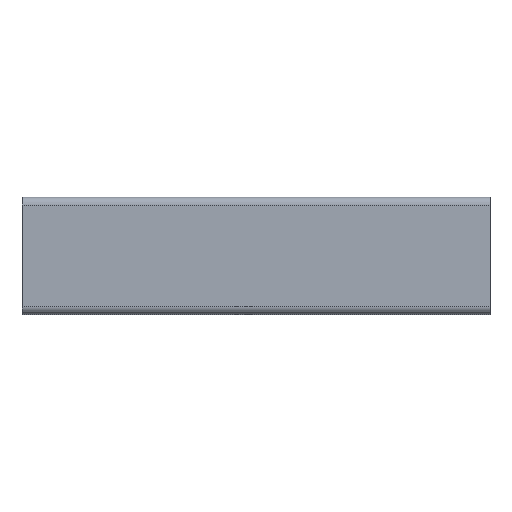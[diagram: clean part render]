
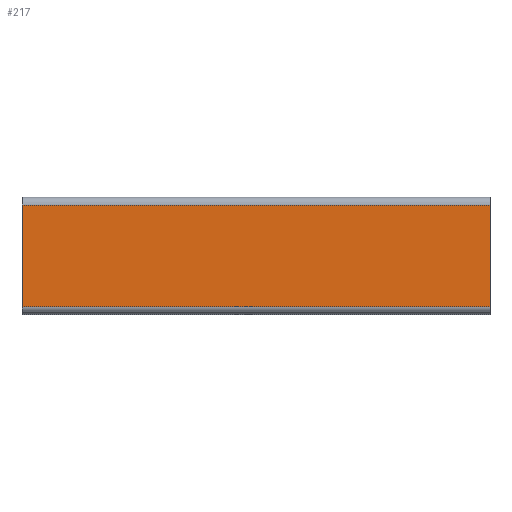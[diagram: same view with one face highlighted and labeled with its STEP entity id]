
A CAD part, top view. The second image highlights one B-rep face of the part: STEP entity #217.
In plain terms, the highlighted planar face has unit normal (0, 0, 1).
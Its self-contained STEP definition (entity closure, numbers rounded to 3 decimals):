
#18 = EDGE_CURVE ( 'NONE', #143, #907, #499, .T. ) ;
#76 = VECTOR ( 'NONE', #748, 1000. ) ;
#87 = CARTESIAN_POINT ( 'NONE',  ( 100., 23.375, 25. ) ) ;
#125 = CARTESIAN_POINT ( 'NONE',  ( 100., 1.708, 25. ) ) ;
#143 = VERTEX_POINT ( 'NONE', #936 ) ;
#217 = ADVANCED_FACE ( 'NONE', ( #1124 ), #428, .F. ) ;
#238 = DIRECTION ( 'NONE',  ( -1., 0., 0. ) ) ;
#287 = VECTOR ( 'NONE', #1045, 1000. ) ;
#291 = LINE ( 'NONE', #87, #76 ) ;
#333 = EDGE_LOOP ( 'NONE', ( #473, #839, #368, #705 ) ) ;
#368 = ORIENTED_EDGE ( 'NONE', *, *, #444, .F. ) ;
#428 = PLANE ( 'NONE',  #1099 ) ;
#444 = EDGE_CURVE ( 'NONE', #928, #838, #1026, .T. ) ;
#465 = VECTOR ( 'NONE', #689, 1000. ) ;
#473 = ORIENTED_EDGE ( 'NONE', *, *, #18, .T. ) ;
#492 = CARTESIAN_POINT ( 'NONE',  ( 0., 1.708, 25. ) ) ;
#499 = LINE ( 'NONE', #492, #287 ) ;
#535 = DIRECTION ( 'NONE',  ( -1., 0., 0. ) ) ;
#564 = LINE ( 'NONE', #713, #1014 ) ;
#623 = CARTESIAN_POINT ( 'NONE',  ( 100., 1.708, 25. ) ) ;
#689 = DIRECTION ( 'NONE',  ( 0., -1., 0. ) ) ;
#705 = ORIENTED_EDGE ( 'NONE', *, *, #816, .T. ) ;
#713 = CARTESIAN_POINT ( 'NONE',  ( 100., 1.708, 25. ) ) ;
#748 = DIRECTION ( 'NONE',  ( -1., 0., 0. ) ) ;
#813 = CARTESIAN_POINT ( 'NONE',  ( 100., 23.375, 25. ) ) ;
#816 = EDGE_CURVE ( 'NONE', #928, #143, #291, .T. ) ;
#819 = CARTESIAN_POINT ( 'NONE',  ( 0., 1.708, 25. ) ) ;
#838 = VERTEX_POINT ( 'NONE', #125 ) ;
#839 = ORIENTED_EDGE ( 'NONE', *, *, #1153, .F. ) ;
#907 = VERTEX_POINT ( 'NONE', #819 ) ;
#928 = VERTEX_POINT ( 'NONE', #813 ) ;
#936 = CARTESIAN_POINT ( 'NONE',  ( 0., 23.375, 25. ) ) ;
#1014 = VECTOR ( 'NONE', #238, 1000. ) ;
#1026 = LINE ( 'NONE', #1158, #465 ) ;
#1045 = DIRECTION ( 'NONE',  ( 0., -1., 0. ) ) ;
#1099 = AXIS2_PLACEMENT_3D ( 'NONE', #623, #1168, #535 ) ;
#1124 = FACE_OUTER_BOUND ( 'NONE', #333, .T. ) ;
#1153 = EDGE_CURVE ( 'NONE', #838, #907, #564, .T. ) ;
#1158 = CARTESIAN_POINT ( 'NONE',  ( 100., 1.708, 25. ) ) ;
#1168 = DIRECTION ( 'NONE',  ( 0., 0., -1. ) ) ;
